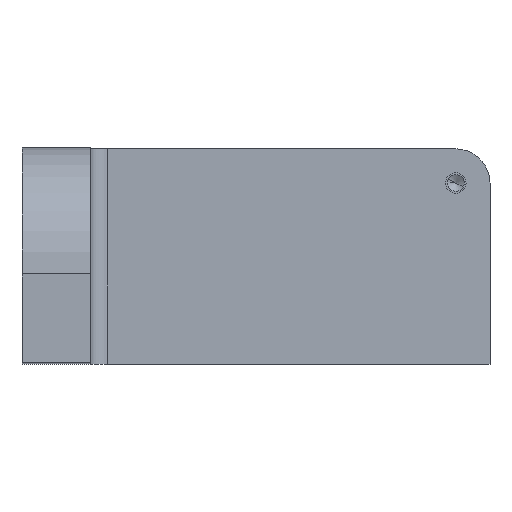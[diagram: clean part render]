
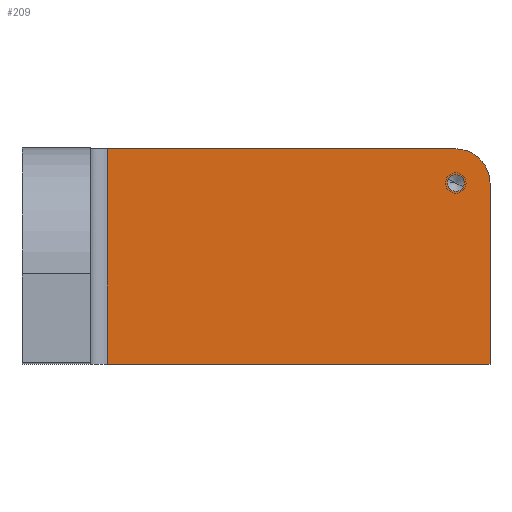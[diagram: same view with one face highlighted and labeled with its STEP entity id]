
A CAD part, top view. The second image highlights one B-rep face of the part: STEP entity #209.
In plain terms, the highlighted planar face has unit normal (0, 0, 1).
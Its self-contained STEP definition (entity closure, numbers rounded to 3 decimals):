
#144=CARTESIAN_POINT('Axis2P3D Location',(0.,0.,20.)) ;
#149=CARTESIAN_POINT('Line Origine',(81.,0.,20.)) ;
#153=CARTESIAN_POINT('Vertex',(25.,0.,20.)) ;
#155=CARTESIAN_POINT('Vertex',(137.,0.,20.)) ;
#158=CARTESIAN_POINT('Line Origine',(137.,26.5,20.)) ;
#162=CARTESIAN_POINT('Vertex',(137.,53.,20.)) ;
#165=CARTESIAN_POINT('Axis2P3D Location',(127.,53.,20.)) ;
#169=CARTESIAN_POINT('Vertex',(127.,63.,20.)) ;
#172=CARTESIAN_POINT('Line Origine',(76.,63.,20.)) ;
#176=CARTESIAN_POINT('Vertex',(25.,63.,20.)) ;
#179=CARTESIAN_POINT('Line Origine',(25.,31.5,20.)) ;
#191=CARTESIAN_POINT('Axis2P3D Location',(127.,53.,20.)) ;
#195=CARTESIAN_POINT('Vertex',(124.842,54.179,20.)) ;
#197=CARTESIAN_POINT('Vertex',(129.158,51.821,20.)) ;
#200=CARTESIAN_POINT('Axis2P3D Location',(127.,53.,20.)) ;
#145=DIRECTION('Axis2P3D Direction',(0.,0.,1.)) ;
#146=DIRECTION('Axis2P3D XDirection',(1.,0.,0.)) ;
#150=DIRECTION('Vector Direction',(1.,0.,0.)) ;
#159=DIRECTION('Vector Direction',(0.,1.,0.)) ;
#166=DIRECTION('Axis2P3D Direction',(0.,0.,1.)) ;
#173=DIRECTION('Vector Direction',(-1.,0.,0.)) ;
#180=DIRECTION('Vector Direction',(0.,-1.,0.)) ;
#192=DIRECTION('Axis2P3D Direction',(0.,0.,1.)) ;
#201=DIRECTION('Axis2P3D Direction',(0.,0.,1.)) ;
#147=AXIS2_PLACEMENT_3D('Plane Axis2P3D',#144,#145,#146) ;
#167=AXIS2_PLACEMENT_3D('Circle Axis2P3D',#165,#166,$) ;
#193=AXIS2_PLACEMENT_3D('Circle Axis2P3D',#191,#192,$) ;
#202=AXIS2_PLACEMENT_3D('Circle Axis2P3D',#200,#201,$) ;
#185=ORIENTED_EDGE('',*,*,#157,.T.) ;
#186=ORIENTED_EDGE('',*,*,#164,.T.) ;
#187=ORIENTED_EDGE('',*,*,#171,.T.) ;
#188=ORIENTED_EDGE('',*,*,#178,.T.) ;
#189=ORIENTED_EDGE('',*,*,#183,.F.) ;
#206=ORIENTED_EDGE('',*,*,#199,.F.) ;
#207=ORIENTED_EDGE('',*,*,#204,.F.) ;
#208=FACE_BOUND('',#205,.T.) ;
#151=VECTOR('Line Direction',#150,1.) ;
#160=VECTOR('Line Direction',#159,1.) ;
#174=VECTOR('Line Direction',#173,1.) ;
#181=VECTOR('Line Direction',#180,1.) ;
#209=ADVANCED_FACE('PartBody',(#190,#208),#148,.T.) ;
#168=CIRCLE('generated circle',#167,10.) ;
#194=CIRCLE('generated circle',#193,2.459) ;
#203=CIRCLE('generated circle',#202,2.459) ;
#157=EDGE_CURVE('',#154,#156,#152,.T.) ;
#164=EDGE_CURVE('',#156,#163,#161,.T.) ;
#171=EDGE_CURVE('',#163,#170,#168,.T.) ;
#178=EDGE_CURVE('',#170,#177,#175,.T.) ;
#183=EDGE_CURVE('',#154,#177,#182,.F.) ;
#199=EDGE_CURVE('',#196,#198,#194,.T.) ;
#204=EDGE_CURVE('',#198,#196,#203,.T.) ;
#184=EDGE_LOOP('',(#185,#186,#187,#188,#189)) ;
#205=EDGE_LOOP('',(#206,#207)) ;
#190=FACE_OUTER_BOUND('',#184,.T.) ;
#152=LINE('Line',#149,#151) ;
#161=LINE('Line',#158,#160) ;
#175=LINE('Line',#172,#174) ;
#182=LINE('Line',#179,#181) ;
#148=PLANE('',#147) ;
#154=VERTEX_POINT('',#153) ;
#156=VERTEX_POINT('',#155) ;
#163=VERTEX_POINT('',#162) ;
#170=VERTEX_POINT('',#169) ;
#177=VERTEX_POINT('',#176) ;
#196=VERTEX_POINT('',#195) ;
#198=VERTEX_POINT('',#197) ;
